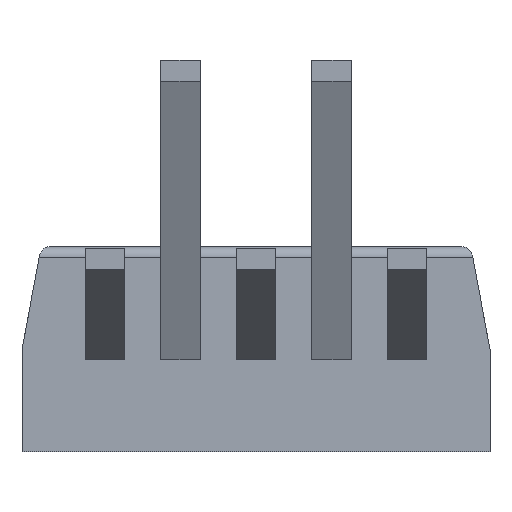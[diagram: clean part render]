
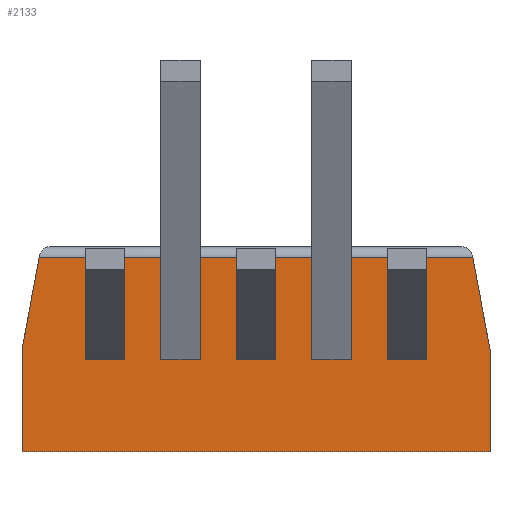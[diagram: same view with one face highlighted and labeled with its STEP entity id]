
A CAD part, front view. The second image highlights one B-rep face of the part: STEP entity #2133.
In plain terms, the highlighted planar face has unit normal (0, -1, 0).
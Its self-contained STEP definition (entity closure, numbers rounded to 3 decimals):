
#1932 = CARTESIAN_POINT ( 'NONE',  ( -5.27, 5.5, -4.815 ) ) ;
#1933 = VERTEX_POINT ( 'NONE', #1932 ) ;
#1934 = CARTESIAN_POINT ( 'NONE',  ( -5.27, 5.5, -2.505 ) ) ;
#1935 = VERTEX_POINT ( 'NONE', #1934 ) ;
#1936 = CARTESIAN_POINT ( 'NONE',  ( -5.27, 5.5, -0.195 ) ) ;
#1937 = DIRECTION ( 'NONE',  ( 0., 0., 1. ) ) ;
#1938 = VECTOR ( 'NONE', #1937, 1000. ) ;
#1939 = LINE ( 'NONE', #1936, #1938 ) ;
#1940 = EDGE_CURVE ( 'NONE', #1933, #1935, #1939, .T. ) ;
#2032 = CARTESIAN_POINT ( 'NONE',  ( 5.27, 5.5, -2.505 ) ) ;
#2033 = VERTEX_POINT ( 'NONE', #2032 ) ;
#2040 = CARTESIAN_POINT ( 'NONE',  ( 5.27, 5.5, -4.815 ) ) ;
#2041 = VERTEX_POINT ( 'NONE', #2040 ) ;
#2042 = CARTESIAN_POINT ( 'NONE',  ( 5.27, 5.5, -0.195 ) ) ;
#2043 = DIRECTION ( 'NONE',  ( 0., 0., -1. ) ) ;
#2044 = VECTOR ( 'NONE', #2043, 1000. ) ;
#2045 = LINE ( 'NONE', #2042, #2044 ) ;
#2046 = EDGE_CURVE ( 'NONE', #2033, #2041, #2045, .T. ) ;
#2062 = CARTESIAN_POINT ( 'NONE',  ( -5.27, 5.5, -4.815 ) ) ;
#2063 = DIRECTION ( 'NONE',  ( -1., 0., 0. ) ) ;
#2064 = VECTOR ( 'NONE', #2063, 1000. ) ;
#2065 = LINE ( 'NONE', #2062, #2064 ) ;
#2066 = EDGE_CURVE ( 'NONE', #2041, #1933, #2065, .T. ) ;
#2101 = CARTESIAN_POINT ( 'NONE',  ( 4.884, 5.5, -0.445 ) ) ;
#2102 = VERTEX_POINT ( 'NONE', #2101 ) ;
#2103 = CARTESIAN_POINT ( 'NONE',  ( 4.912, 5.5, -0.647 ) ) ;
#2104 = DIRECTION ( 'NONE',  ( -0.139, 0., 0.99 ) ) ;
#2105 = VECTOR ( 'NONE', #2104, 1000. ) ;
#2106 = LINE ( 'NONE', #2103, #2105 ) ;
#2107 = EDGE_CURVE ( 'NONE', #2033, #2102, #2106, .T. ) ;
#2108 = ORIENTED_EDGE ( 'NONE', *, *, #2107, .T. ) ;
#2109 = CARTESIAN_POINT ( 'NONE',  ( -4.884, 5.5, -0.445 ) ) ;
#2110 = VERTEX_POINT ( 'NONE', #2109 ) ;
#2111 = CARTESIAN_POINT ( 'NONE',  ( -4.848, 5.5, -0.445 ) ) ;
#2112 = DIRECTION ( 'NONE',  ( -1., 0., 0. ) ) ;
#2113 = VECTOR ( 'NONE', #2112, 1000. ) ;
#2114 = LINE ( 'NONE', #2111, #2113 ) ;
#2115 = EDGE_CURVE ( 'NONE', #2102, #2110, #2114, .T. ) ;
#2116 = ORIENTED_EDGE ( 'NONE', *, *, #2115, .T. ) ;
#2117 = CARTESIAN_POINT ( 'NONE',  ( -5.044, 5.5, -1.584 ) ) ;
#2118 = DIRECTION ( 'NONE',  ( -0.139, 0., -0.99 ) ) ;
#2119 = VECTOR ( 'NONE', #2118, 1000. ) ;
#2120 = LINE ( 'NONE', #2117, #2119 ) ;
#2121 = EDGE_CURVE ( 'NONE', #2110, #1935, #2120, .T. ) ;
#2122 = ORIENTED_EDGE ( 'NONE', *, *, #2121, .T. ) ;
#2123 = ORIENTED_EDGE ( 'NONE', *, *, #1940, .F. ) ;
#2124 = ORIENTED_EDGE ( 'NONE', *, *, #2066, .F. ) ;
#2125 = ORIENTED_EDGE ( 'NONE', *, *, #2046, .F. ) ;
#2126 = EDGE_LOOP ( 'NONE', ( #2108, #2116, #2122, #2123, #2124, #2125 ) ) ;
#2127 = FACE_OUTER_BOUND ( 'NONE', #2126, .T. ) ;
#2128 = CARTESIAN_POINT ( 'NONE',  ( 0., 5.5, 0. ) ) ;
#2129 = DIRECTION ( 'NONE',  ( 0., -1., 0. ) ) ;
#2130 = DIRECTION ( 'NONE',  ( 0., 0., -1. ) ) ;
#2131 = AXIS2_PLACEMENT_3D ( 'NONE', #2128, #2129, #2130 ) ;
#2132 = PLANE ( 'NONE', #2131 ) ;
#2133 = ADVANCED_FACE ( 'NONE', ( #2127 ), #2132, .T. ) ;
